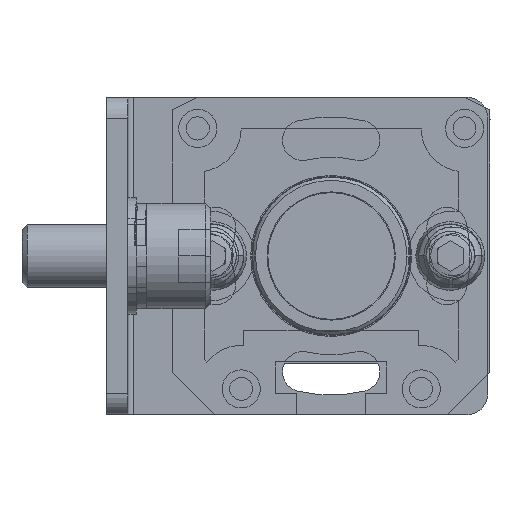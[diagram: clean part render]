
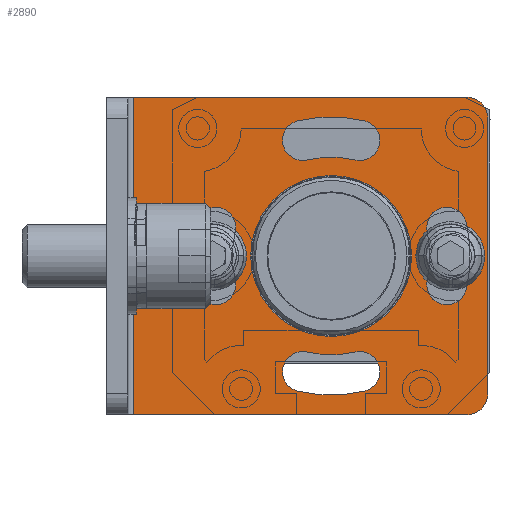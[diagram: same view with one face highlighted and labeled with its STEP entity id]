
A CAD part, front view. The second image highlights one B-rep face of the part: STEP entity #2890.
In plain terms, the highlighted planar face has unit normal (0, -1, 0).
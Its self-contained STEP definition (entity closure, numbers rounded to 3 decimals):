
#692=LINE('',#40670,#1452);
#697=LINE('',#40682,#1457);
#703=LINE('',#40698,#1463);
#707=LINE('',#40722,#1467);
#1452=VECTOR('',#13263,1.);
#1457=VECTOR('',#13272,1.);
#1463=VECTOR('',#13290,1.);
#1467=VECTOR('',#13320,1.);
#1962=PLANE('',#11082);
#2299=FACE_BOUND('',#4309,.T.);
#2300=FACE_BOUND('',#4310,.T.);
#2301=FACE_BOUND('',#4311,.T.);
#2302=FACE_BOUND('',#4312,.T.);
#2303=FACE_BOUND('',#4313,.T.);
#2304=FACE_BOUND('',#4314,.T.);
#2890=ADVANCED_FACE('',(#2299,#2300,#2301,#2302,#2303,#2304),#1962,.T.);
#4309=EDGE_LOOP('',(#6781,#6782,#6783,#6784));
#4310=EDGE_LOOP('',(#6785,#6786,#6787,#6788));
#4311=EDGE_LOOP('',(#6789,#6790,#6791,#6792));
#4312=EDGE_LOOP('',(#6793));
#4313=EDGE_LOOP('',(#6794,#6795,#6796,#6797));
#4314=EDGE_LOOP('',(#6798,#6799,#6800,#6801,#6802,#6803));
#6781=ORIENTED_EDGE('',*,*,#9603,.T.);
#6782=ORIENTED_EDGE('',*,*,#9604,.T.);
#6783=ORIENTED_EDGE('',*,*,#9542,.T.);
#6784=ORIENTED_EDGE('',*,*,#9605,.T.);
#6785=ORIENTED_EDGE('',*,*,#9606,.T.);
#6786=ORIENTED_EDGE('',*,*,#9546,.T.);
#6787=ORIENTED_EDGE('',*,*,#9607,.T.);
#6788=ORIENTED_EDGE('',*,*,#9550,.T.);
#6789=ORIENTED_EDGE('',*,*,#9608,.T.);
#6790=ORIENTED_EDGE('',*,*,#9554,.T.);
#6791=ORIENTED_EDGE('',*,*,#9609,.T.);
#6792=ORIENTED_EDGE('',*,*,#9558,.T.);
#6793=ORIENTED_EDGE('',*,*,#9563,.T.);
#6794=ORIENTED_EDGE('',*,*,#9610,.T.);
#6795=ORIENTED_EDGE('',*,*,#9611,.T.);
#6796=ORIENTED_EDGE('',*,*,#9612,.T.);
#6797=ORIENTED_EDGE('',*,*,#9564,.T.);
#6798=ORIENTED_EDGE('',*,*,#9613,.T.);
#6799=ORIENTED_EDGE('',*,*,#9614,.T.);
#6800=ORIENTED_EDGE('',*,*,#9598,.F.);
#6801=ORIENTED_EDGE('',*,*,#9584,.T.);
#6802=ORIENTED_EDGE('',*,*,#9590,.F.);
#6803=ORIENTED_EDGE('',*,*,#9615,.T.);
#8262=VERTEX_POINT('',#40580);
#8263=VERTEX_POINT('',#40581);
#8266=VERTEX_POINT('',#40589);
#8267=VERTEX_POINT('',#40590);
#8270=VERTEX_POINT('',#40598);
#8271=VERTEX_POINT('',#40599);
#8274=VERTEX_POINT('',#40607);
#8275=VERTEX_POINT('',#40608);
#8278=VERTEX_POINT('',#40616);
#8279=VERTEX_POINT('',#40617);
#8283=VERTEX_POINT('',#40627);
#8284=VERTEX_POINT('',#40630);
#8285=VERTEX_POINT('',#40631);
#8298=VERTEX_POINT('',#40667);
#8299=VERTEX_POINT('',#40669);
#8304=VERTEX_POINT('',#40681);
#8309=VERTEX_POINT('',#40699);
#8312=VERTEX_POINT('',#40709);
#8313=VERTEX_POINT('',#40710);
#8314=VERTEX_POINT('',#40718);
#8315=VERTEX_POINT('',#40720);
#8316=VERTEX_POINT('',#40723);
#8317=VERTEX_POINT('',#40724);
#9542=EDGE_CURVE('',#8262,#8263,#10244,.T.);
#9546=EDGE_CURVE('',#8266,#8267,#10246,.T.);
#9550=EDGE_CURVE('',#8270,#8271,#10248,.T.);
#9554=EDGE_CURVE('',#8274,#8275,#10250,.T.);
#9558=EDGE_CURVE('',#8278,#8279,#10252,.T.);
#9563=EDGE_CURVE('',#8283,#8283,#10255,.T.);
#9564=EDGE_CURVE('',#8284,#8285,#10256,.T.);
#9584=EDGE_CURVE('',#8298,#8299,#692,.T.);
#9590=EDGE_CURVE('',#8304,#8299,#697,.T.);
#9598=EDGE_CURVE('',#8298,#8309,#703,.T.);
#9603=EDGE_CURVE('',#8312,#8313,#10268,.T.);
#9604=EDGE_CURVE('',#8313,#8262,#10269,.T.);
#9605=EDGE_CURVE('',#8263,#8312,#10270,.T.);
#9606=EDGE_CURVE('',#8271,#8266,#10271,.T.);
#9607=EDGE_CURVE('',#8267,#8270,#10272,.T.);
#9608=EDGE_CURVE('',#8279,#8274,#10273,.T.);
#9609=EDGE_CURVE('',#8275,#8278,#10274,.T.);
#9610=EDGE_CURVE('',#8285,#8314,#10275,.T.);
#9611=EDGE_CURVE('',#8314,#8315,#10276,.T.);
#9612=EDGE_CURVE('',#8315,#8284,#10277,.T.);
#9613=EDGE_CURVE('',#8316,#8317,#707,.T.);
#9614=EDGE_CURVE('',#8317,#8309,#10278,.T.);
#9615=EDGE_CURVE('',#8304,#8316,#10279,.T.);
#10244=CIRCLE('',#11028,1.9);
#10246=CIRCLE('',#11031,13.15);
#10248=CIRCLE('',#11034,9.35);
#10250=CIRCLE('',#11037,1.9);
#10252=CIRCLE('',#11040,1.9);
#10255=CIRCLE('',#11044,7.6);
#10256=CIRCLE('',#11046,1.9);
#10268=CIRCLE('',#11070,1.9);
#10269=CIRCLE('',#11071,13.15);
#10270=CIRCLE('',#11072,9.35);
#10271=CIRCLE('',#11073,1.9);
#10272=CIRCLE('',#11074,1.9);
#10273=CIRCLE('',#11075,13.15);
#10274=CIRCLE('',#11076,9.35);
#10275=CIRCLE('',#11077,13.15);
#10276=CIRCLE('',#11078,1.9);
#10277=CIRCLE('',#11079,9.35);
#10278=CIRCLE('',#11080,2.);
#10279=CIRCLE('',#11081,2.);
#11028=AXIS2_PLACEMENT_3D('',#40579,#13179,#13180);
#11031=AXIS2_PLACEMENT_3D('',#40588,#13187,#13188);
#11034=AXIS2_PLACEMENT_3D('',#40597,#13195,#13196);
#11037=AXIS2_PLACEMENT_3D('',#40606,#13203,#13204);
#11040=AXIS2_PLACEMENT_3D('',#40615,#13211,#13212);
#11044=AXIS2_PLACEMENT_3D('',#40626,#13221,#13222);
#11046=AXIS2_PLACEMENT_3D('',#40629,#13225,#13226);
#11070=AXIS2_PLACEMENT_3D('',#40708,#13300,#13301);
#11071=AXIS2_PLACEMENT_3D('',#40711,#13302,#13303);
#11072=AXIS2_PLACEMENT_3D('',#40712,#13304,#13305);
#11073=AXIS2_PLACEMENT_3D('',#40713,#13306,#13307);
#11074=AXIS2_PLACEMENT_3D('',#40714,#13308,#13309);
#11075=AXIS2_PLACEMENT_3D('',#40715,#13310,#13311);
#11076=AXIS2_PLACEMENT_3D('',#40716,#13312,#13313);
#11077=AXIS2_PLACEMENT_3D('',#40717,#13314,#13315);
#11078=AXIS2_PLACEMENT_3D('',#40719,#13316,#13317);
#11079=AXIS2_PLACEMENT_3D('',#40721,#13318,#13319);
#11080=AXIS2_PLACEMENT_3D('',#40725,#13321,#13322);
#11081=AXIS2_PLACEMENT_3D('',#40726,#13323,#13324);
#11082=AXIS2_PLACEMENT_3D('',#40727,#13325,#13326);
#13179=DIRECTION('',(0.,1.,0.));
#13180=DIRECTION('',(0.,0.,1.));
#13187=DIRECTION('',(0.,1.,0.));
#13188=DIRECTION('',(0.,0.,1.));
#13195=DIRECTION('',(0.,-1.,0.));
#13196=DIRECTION('',(0.,0.,1.));
#13203=DIRECTION('',(0.,1.,0.));
#13204=DIRECTION('',(0.,0.,1.));
#13211=DIRECTION('',(0.,1.,0.));
#13212=DIRECTION('',(0.,0.,1.));
#13221=DIRECTION('',(0.,1.,0.));
#13222=DIRECTION('',(0.,0.,1.));
#13225=DIRECTION('',(0.,1.,0.));
#13226=DIRECTION('',(0.,0.,1.));
#13263=DIRECTION('',(0.,0.,-1.));
#13272=DIRECTION('',(-1.,0.,0.));
#13290=DIRECTION('',(1.,0.,0.));
#13300=DIRECTION('',(0.,1.,0.));
#13301=DIRECTION('',(0.,0.,1.));
#13302=DIRECTION('',(0.,1.,0.));
#13303=DIRECTION('',(0.,0.,1.));
#13304=DIRECTION('',(0.,-1.,0.));
#13305=DIRECTION('',(0.,0.,1.));
#13306=DIRECTION('',(0.,1.,0.));
#13307=DIRECTION('',(0.,0.,1.));
#13308=DIRECTION('',(0.,1.,0.));
#13309=DIRECTION('',(0.,0.,1.));
#13310=DIRECTION('',(0.,1.,0.));
#13311=DIRECTION('',(0.,0.,1.));
#13312=DIRECTION('',(0.,-1.,0.));
#13313=DIRECTION('',(0.,0.,1.));
#13314=DIRECTION('',(0.,1.,0.));
#13315=DIRECTION('',(0.,0.,1.));
#13316=DIRECTION('',(0.,1.,0.));
#13317=DIRECTION('',(0.,0.,1.));
#13318=DIRECTION('',(0.,-1.,0.));
#13319=DIRECTION('',(0.,0.,1.));
#13320=DIRECTION('',(0.,0.,1.));
#13321=DIRECTION('',(0.,-1.,0.));
#13322=DIRECTION('',(0.,0.,-1.));
#13323=DIRECTION('',(0.,-1.,0.));
#13324=DIRECTION('',(0.,0.,1.));
#13325=DIRECTION('',(0.,-1.,0.));
#13326=DIRECTION('',(-1.,0.,0.));
#40579=CARTESIAN_POINT('',(-110.921,-998.,2.851));
#40580=CARTESIAN_POINT('',(-112.765,-998.,3.307));
#40581=CARTESIAN_POINT('',(-109.077,-998.,2.395));
#40588=CARTESIAN_POINT('',(-100.,-998.,0.15));
#40589=CARTESIAN_POINT('',(-103.157,-998.,12.915));
#40590=CARTESIAN_POINT('',(-96.843,-998.,12.915));
#40597=CARTESIAN_POINT('',(-100.,-998.,0.15));
#40598=CARTESIAN_POINT('',(-97.755,-998.,9.227));
#40599=CARTESIAN_POINT('',(-102.245,-998.,9.227));
#40606=CARTESIAN_POINT('',(-102.701,-998.,-10.771));
#40607=CARTESIAN_POINT('',(-103.157,-998.,-12.615));
#40608=CARTESIAN_POINT('',(-102.245,-998.,-8.927));
#40615=CARTESIAN_POINT('',(-97.299,-998.,-10.771));
#40616=CARTESIAN_POINT('',(-97.755,-998.,-8.927));
#40617=CARTESIAN_POINT('',(-96.843,-998.,-12.615));
#40626=CARTESIAN_POINT('',(-100.,-998.,0.15));
#40627=CARTESIAN_POINT('',(-100.,-998.,7.75));
#40629=CARTESIAN_POINT('',(-89.079,-998.,2.851));
#40630=CARTESIAN_POINT('',(-90.923,-998.,2.395));
#40631=CARTESIAN_POINT('',(-87.235,-998.,3.307));
#40667=CARTESIAN_POINT('',(-118.7,-998.,15.15));
#40669=CARTESIAN_POINT('',(-118.7,-998.,-14.85));
#40670=CARTESIAN_POINT('',(-118.7,-998.,15.15));
#40681=CARTESIAN_POINT('',(-87.2,-998.,-14.85));
#40682=CARTESIAN_POINT('',(-118.7,-998.,-14.85));
#40698=CARTESIAN_POINT('',(-118.7,-998.,15.15));
#40699=CARTESIAN_POINT('',(-87.2,-998.,15.15));
#40708=CARTESIAN_POINT('',(-110.921,-998.,-2.551));
#40709=CARTESIAN_POINT('',(-109.077,-998.,-2.095));
#40710=CARTESIAN_POINT('',(-112.765,-998.,-3.007));
#40711=CARTESIAN_POINT('',(-100.,-998.,0.15));
#40712=CARTESIAN_POINT('',(-100.,-998.,0.15));
#40713=CARTESIAN_POINT('',(-102.701,-998.,11.071));
#40714=CARTESIAN_POINT('',(-97.299,-998.,11.071));
#40715=CARTESIAN_POINT('',(-100.,-998.,0.15));
#40716=CARTESIAN_POINT('',(-100.,-998.,0.15));
#40717=CARTESIAN_POINT('',(-100.,-998.,0.15));
#40718=CARTESIAN_POINT('',(-87.235,-998.,-3.007));
#40719=CARTESIAN_POINT('',(-89.079,-998.,-2.551));
#40720=CARTESIAN_POINT('',(-90.923,-998.,-2.095));
#40721=CARTESIAN_POINT('',(-100.,-998.,0.15));
#40722=CARTESIAN_POINT('',(-85.2,-998.,15.15));
#40723=CARTESIAN_POINT('',(-85.2,-998.,-12.85));
#40724=CARTESIAN_POINT('',(-85.2,-998.,13.15));
#40725=CARTESIAN_POINT('',(-87.2,-998.,13.15));
#40726=CARTESIAN_POINT('',(-87.2,-998.,-12.85));
#40727=CARTESIAN_POINT('',(-85.2,-998.,15.15));
